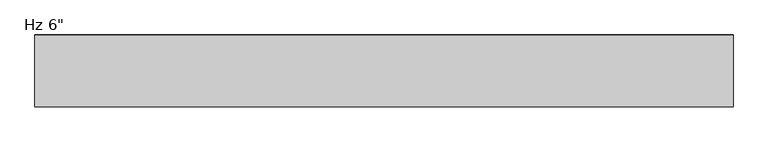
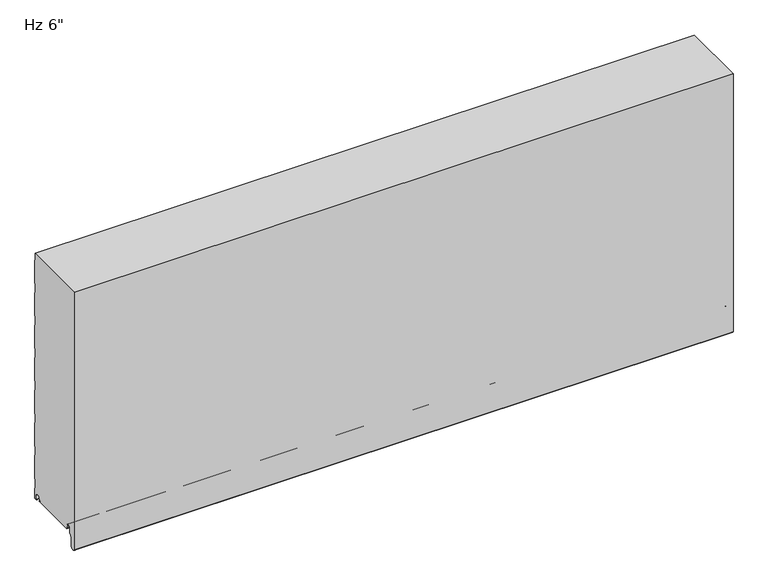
"""IFC4 building model written with IfcOpenShell, lengths in millimetres: plate geometry."""

import ifcopenshell
import ifcopenshell.guid

model = None  # the IFC model being written
_history = None  # IfcOwnerHistory: only IFC2X3 demands one
_inside = {}  # id of a spatial element -> (the spatial element, [elements in it])
_under = {}  # id of a project, library or spatial element -> (it, [spatial elements below it])
_declared = {}  # id of a project -> (the project, [libraries it declares])
_typed = {}  # id of a type object -> (the type object, [elements of that type])
_made_of = {}  # id of a material, layer set ... -> (it, [elements and type objects made of it])


def new_model(schema):
    """Start an empty IFC model of exactly this schema.

    Asked for "IFC4X3", IfcOpenShell would pick the latest addendum, in which some entities
    have other attributes; the version numbers below select the first issue.
    IFC2X3 requires an IfcOwnerHistory on every rooted entity: one is made here for all.
    """
    global model, _history
    if schema == "IFC4X3":
        model = ifcopenshell.file(schema_version=(4, 3, 0, 0))
    else:
        model = ifcopenshell.file(schema=schema)
    _inside.clear()
    _under.clear()
    _declared.clear()
    _typed.clear()
    _made_of.clear()
    _history = None
    if model.schema == "IFC2X3":
        org = make("IfcOrganization", Name="unknown")
        user = make(
            "IfcPersonAndOrganization",
            ThePerson=make("IfcPerson", FamilyName="unknown"),
            TheOrganization=org,
        )
        app = make(
            "IfcApplication",
            ApplicationDeveloper=org,
            Version="unknown",
            ApplicationFullName="unknown",
            ApplicationIdentifier="unknown",
        )
        _history = make(
            "IfcOwnerHistory",
            OwningUser=user,
            OwningApplication=app,
            ChangeAction="ADDED",
            CreationDate=0,
        )
    return model


def make(cls, **values):
    """One entity of the class cls with the attributes given. An attribute that is None is left unset."""
    return model.create_entity(
        cls, **{name: value for name, value in values.items() if value is not None}
    )


def rooted(cls, **values):
    """An entity with a GlobalId (a new one), such as an element, a storey or a relation."""
    return make(cls, GlobalId=ifcopenshell.guid.new(), OwnerHistory=_history, **values)


def si_unit(unit_type, name, prefix=None):
    """IfcSIUnit, for example si_unit("LENGTHUNIT", "METRE", prefix="MILLI")."""
    return make("IfcSIUnit", UnitType=unit_type, Prefix=prefix, Name=name)


def assignment(units):
    """IfcUnitAssignment: the units of a project."""
    return None if units is None else make("IfcUnitAssignment", Units=units)


def point(xyz):
    """IfcCartesianPoint."""
    return None if xyz is None else make("IfcCartesianPoint", Coordinates=xyz)


def direction(xyz):
    """IfcDirection."""
    return None if xyz is None else make("IfcDirection", DirectionRatios=xyz)


def frame(location, z_axis=None, x_axis=None):
    """IfcAxis2Placement3D, a coordinate frame: its origin and axes. An axis left out is left unset."""
    return make(
        "IfcAxis2Placement3D",
        Location=point(location),
        Axis=direction(z_axis),
        RefDirection=direction(x_axis),
    )


def origin():
    """The frame at (0, 0, 0) with its axes left unset."""
    return frame((0.0, 0.0, 0.0))


def place(relative_to, where):
    """IfcLocalPlacement: puts the frame where relative to a parent placement (None: the world)."""
    return make(
        "IfcLocalPlacement", PlacementRelTo=relative_to, RelativePlacement=where
    )


def context(
    kind, dimensions, precision=None, world=None, true_north=None, identifier=None
):
    """IfcGeometricRepresentationContext, for example the 3D "Model" context."""
    return make(
        "IfcGeometricRepresentationContext",
        ContextIdentifier=identifier,
        ContextType=kind,
        CoordinateSpaceDimension=dimensions,
        Precision=precision,
        WorldCoordinateSystem=world,
        TrueNorth=true_north,
    )


def project(units=None, contexts=None):
    """IfcProject with its units and contexts."""
    return rooted(
        "IfcProject",
        Name="project",
        RepresentationContexts=contexts,
        UnitsInContext=assignment(units),
    )


def spatial(cls, under=None, at=None, **own):
    """A site, building, storey or space (cls), placed at a placement, below another one or the project."""
    s = rooted(cls, ObjectPlacement=at, **own)
    if under is not None:
        _under.setdefault(under.id(), (under, []))[1].append(s)
    return s


def polyline(points):
    """IfcPolyline through the points."""
    return make("IfcPolyline", Points=[point(p) for p in points])


def circle_curve(where, radius):
    """IfcCircle in the frame where."""
    return make("IfcCircle", Position=where, Radius=radius)


def shape(context_of_items, identifier, shape_type, items):
    """IfcShapeRepresentation: the items that make up one representation, for example the "Body"."""
    return make(
        "IfcShapeRepresentation",
        ContextOfItems=context_of_items,
        RepresentationIdentifier=identifier,
        RepresentationType=shape_type,
        Items=items,
    )


def source(mapping_origin, context_of_items, identifier, shape_type, items):
    """IfcRepresentationMap: a shape defined once, which mapped items show again and again."""
    return make(
        "IfcRepresentationMap",
        MappingOrigin=mapping_origin,
        MappedRepresentation=shape(context_of_items, identifier, shape_type, items),
    )


def transform(
    local_origin,
    x_axis=None,
    y_axis=None,
    z_axis=None,
    scale=None,
    scale2=None,
    scale3=None,
    uniform=True,
):
    """IfcCartesianTransformationOperator3D, or its non-uniform kind. x_axis, y_axis, z_axis: its Axis1, 2, 3."""
    if uniform:
        return make(
            "IfcCartesianTransformationOperator3D",
            Axis1=direction(x_axis),
            Axis2=direction(y_axis),
            LocalOrigin=point(local_origin),
            Scale=scale,
            Axis3=direction(z_axis),
        )
    return make(
        "IfcCartesianTransformationOperator3DnonUniform",
        Axis1=direction(x_axis),
        Axis2=direction(y_axis),
        LocalOrigin=point(local_origin),
        Scale=scale,
        Axis3=direction(z_axis),
        Scale2=scale2,
        Scale3=scale3,
    )


def mapped(mapping_source, mapping_target):
    """IfcMappedItem: shows the shape of a source again, moved by a transform."""
    return make(
        "IfcMappedItem", MappingSource=mapping_source, MappingTarget=mapping_target
    )


def made_of(thing, what):
    """Note that an element or type object is made of a material, layer set ...; save() writes the relation."""
    if what is not None:
        _made_of.setdefault(what.id(), (what, []))[1].append(thing)
    return thing


def element(
    cls,
    number,
    at=None,
    inside=None,
    cuts=None,
    type_object=None,
    material=None,
    context=None,
    identifier="Body",
    shape_type=None,
    held_by="IfcProductDefinitionShape",
    body=None,
    shapes=None,
    **own,
):
    """One element of the class cls, such as IfcWall. Its Tag is "e" and its number.

    at: its placement. inside: the storey or other place that contains it. cuts: it is an
    opening in that element (IfcRelVoidsElement). A single representation is given by context,
    identifier, shape_type and body (its items); several are given by shapes. held_by: the class
    of the entity that holds the representations. save() writes the other relations.
    """
    e = rooted(cls, Tag="e%d" % number, ObjectPlacement=at, **own)
    if body is not None:
        shapes = [shape(context, identifier, shape_type, body)]
    if shapes is not None:
        e.Representation = make(held_by, Representations=shapes)
    if inside is not None:
        _inside.setdefault(inside.id(), (inside, []))[1].append(e)
    if cuts is not None:
        rooted(
            "IfcRelVoidsElement", RelatingBuildingElement=cuts, RelatedOpeningElement=e
        )
    if type_object is not None:
        _typed.setdefault(type_object.id(), (type_object, []))[1].append(e)
    return made_of(e, material)


def aggregate(whole, parts):
    """IfcRelAggregates: a whole, such as a stair, and the parts it consists of."""
    return rooted("IfcRelAggregates", RelatingObject=whole, RelatedObjects=parts)


def save(model, path):
    """Write the relations noted so far, then the file.

    IfcRelAggregates (storeys below a building ...), IfcRelContainedInSpatialStructure (elements
    in a storey), IfcRelDefinesByType, IfcRelAssociatesMaterial and IfcRelDeclares: one each for
    every whole, place, type object, material and project.
    """
    for whole, parts in _under.values():
        aggregate(whole, parts)
    for where, things in _inside.values():
        rooted(
            "IfcRelContainedInSpatialStructure",
            RelatedElements=things,
            RelatingStructure=where,
        )
    for kind, things in _typed.values():
        rooted("IfcRelDefinesByType", RelatedObjects=things, RelatingType=kind)
    for what, things in _made_of.values():
        rooted("IfcRelAssociatesMaterial", RelatedObjects=things, RelatingMaterial=what)
    for by, libraries in _declared.values():
        rooted("IfcRelDeclares", RelatingContext=by, RelatedDefinitions=libraries)
    model.write(path)


def plane_surface(at):
    """IfcPlane: the flat surface through the origin of the frame at, square to its z axis."""
    return make("IfcPlane", Position=at)


def cylinder_surface(at, radius):
    """IfcCylindricalSurface: all points at the distance radius from the z axis of the frame at."""
    return make("IfcCylindricalSurface", Position=at, Radius=radius)


def revolved_surface(curve, axis_point, axis_direction):
    """IfcSurfaceOfRevolution: the curve turned about the line through axis_point along axis_direction."""
    return make(
        "IfcSurfaceOfRevolution",
        SweptCurve=make("IfcArbitraryOpenProfileDef", ProfileType="CURVE", Curve=curve),
        AxisPosition=make("IfcAxis1Placement", Location=point(axis_point), Axis=direction(axis_direction)),
    )


def advanced_brep(points, edges, surfaces, faces):
    """IfcAdvancedBrep: a solid bounded by faces that lie on surfaces and meet in shared edges.

    An edge is (start, end): straight between two places in points (the first is 0);
    or (start, end, curve); or (start, end, curve, False) where it runs against its curve.
    A face is (place in surfaces, loops), or (place, loops, False) where it looks against
    its surface's normal. A loop lists edges by number (the first is 1), with a minus sign
    where the edge is run from its end to its start. The first loop is the outer one.
    """
    corners = [point(p) for p in points]
    vertices = [make("IfcVertexPoint", VertexGeometry=c) for c in corners]
    made = []
    for start, end, *more in edges:
        made.append(
            make(
                "IfcEdgeCurve",
                EdgeStart=vertices[start],
                EdgeEnd=vertices[end],
                EdgeGeometry=more[0] if more else make("IfcPolyline", Points=[corners[start], corners[end]]),
                SameSense=more[1] if len(more) > 1 else True,
            )
        )
    hull = []
    for where, loops, *sense in faces:
        bounds = []
        for j, loop in enumerate(loops):
            ring = [make("IfcOrientedEdge", EdgeElement=made[abs(k) - 1], Orientation=k > 0) for k in loop]
            bounds.append(
                make(
                    "IfcFaceOuterBound" if j == 0 else "IfcFaceBound",
                    Bound=make("IfcEdgeLoop", EdgeList=ring),
                    Orientation=True,
                )
            )
        hull.append(make("IfcAdvancedFace", Bounds=bounds, FaceSurface=surfaces[where], SameSense=sense[0] if sense else True))
    return make("IfcAdvancedBrep", Outer=make("IfcClosedShell", CfsFaces=hull))


def plate_fd3d5ee7(model_context):
    return source(origin(), model_context, "Body", "AdvancedBrep", [
        advanced_brep(
        [(-730.0, -124.0708959, 1.0316999), (-730.0, -122.9014212, 2.2328239), (-730.0, -122.9014212, 5.9912173), (-730.0, -124.2999001, 5.9912173), (-730.0, -124.2999001, 8.6903283), (-730.0, -127.6498954, 12.0403236), (-730.0, -132.0498866, 12.0403236), (-730.0, -135.3998819, 8.6903283), (-730.0, -135.3998819, -3.1205608), (-730.0, -135.8977988, -4.3226385), (-730.0, -141.3998699, -9.8247096), (-730.0, -141.3998699, -31.9198392), (-730.0, -143.6184719, -34.5765709), (-730.0, -148.6002927, -35.0125699), (-730.0, -151.3946177, -32.4521176), (-730.0, -151.4000209, 571.2), (-730.0, -2.2002516, 571.2), (-730.0, -2.2002516, 555.8186019), (-730.0, -1.0000209, 554.4329689), (-730.0, -1.0000209, 500.3795535), (-730.0, -2.2002516, 498.9939206), (-730.0, -2.2002516, 479.6187543), (-730.0, -1.0000209, 478.2331213), (-730.0, -1.0000209, 424.1797059), (-730.0, -2.2002516, 422.794073), (-730.0, -2.2002516, 403.4189067), (-730.0, -1.0000209, 402.0332737), (-730.0, -1.0000209, 347.9798583), (-730.0, -2.2002516, 346.5942254), (-730.0, -2.2002516, 327.2190591), (-730.0, -1.0000209, 325.8334261), (-730.0, -1.0000209, 271.7800107), (-730.0, -2.2002516, 270.3943778), (-730.0, -2.2002516, 251.0192115), (-730.0, -1.0000209, 249.6335785), (-730.0, -1.0000209, 195.5801631), (-730.0, -2.2002516, 194.1945302), (-730.0, -2.2002516, 174.8193639), (-730.0, -1.0000209, 173.4337309), (-730.0, -1.0000209, 119.3803155), (-730.0, -2.2002516, 117.9946826), (-730.0, -2.2002516, 98.6195163), (-730.0, -1.0000209, 97.2338833), (-730.0, -1.0000209, 43.1804679), (-730.0, -2.2002516, 41.794835), (-730.0, -2.2002516, 22.4196687), (-730.0, -1.0000126, 21.034026), (-730.0, -1.0000126, -3.4662506), (-730.0, -5.2315599, -3.4662506), (-730.0, -7.001554, -1.6962564), (-730.0, -7.001554, 8.7237222), (-730.0, -10.3015499, 12.023718), (-730.0, -14.7015411, 12.023718), (-730.0, -18.0015368, 8.7237223), (-730.0, -18.0015368, 6.0315125), (-730.0, -19.0015314, 6.0315125), (-730.0, -19.0015314, 2.0313089), (-730.0, -18.0015401, 1.0313117), (-730.0, -19.0328517, 0.0), (-730.0, -123.039196, 0.0), (730.0, -124.0708959, 1.0316999), (730.0, -123.039196, 0.0), (730.0, -19.0328517, 0.0), (730.0, -18.0015401, 1.0313117), (730.0, -19.0015314, 2.0313089), (730.0, -19.0015314, 6.0315125), (730.0, -18.0015368, 6.0315125), (730.0, -18.0015368, 8.7237223), (730.0, -14.7015411, 12.023718), (730.0, -10.3015499, 12.023718), (730.0, -7.001554, 8.7237222), (730.0, -7.001554, -1.6962564), (730.0, -5.2315599, -3.4662506), (730.0, -1.0000126, -3.4662506), (730.0, -1.0000126, 21.034026), (730.0, -2.2002516, 22.4196687), (730.0, -2.2002516, 41.794835), (730.0, -1.0000209, 43.1804679), (730.0, -1.0000209, 97.2338833), (730.0, -2.2002516, 98.6195163), (730.0, -2.2002516, 117.9946826), (730.0, -1.0000209, 119.3803155), (730.0, -1.0000209, 173.4337309), (730.0, -2.2002516, 174.8193639), (730.0, -2.2002516, 194.1945302), (730.0, -1.0000209, 195.5801631), (730.0, -1.0000209, 249.6335785), (730.0, -2.2002516, 251.0192115), (730.0, -2.2002516, 270.3943778), (730.0, -1.0000209, 271.7800107), (730.0, -1.0000209, 325.8334261), (730.0, -2.2002516, 327.2190591), (730.0, -2.2002516, 346.5942254), (730.0, -1.0000209, 347.9798583), (730.0, -1.0000209, 402.0332737), (730.0, -2.2002516, 403.4189067), (730.0, -2.2002516, 422.794073), (730.0, -1.0000209, 424.1797059), (730.0, -1.0000209, 478.2331213), (730.0, -2.2002516, 479.6187543), (730.0, -2.2002516, 498.9939206), (730.0, -1.0000209, 500.3795535), (730.0, -1.0000209, 554.4329689), (730.0, -2.2002516, 555.8186019), (730.0, -2.2002516, 571.2), (730.0, -151.4000209, 571.2), (730.0, -151.4000209, -32.4521176), (730.0, -148.6002927, -35.0125699), (730.0, -143.6184719, -34.5765709), (730.0, -141.3998699, -31.9198392), (730.0, -141.3998699, -9.8247096), (730.0, -135.8977988, -4.3226385), (730.0, -135.3998819, -3.1205608), (730.0, -135.3998819, 8.6903283), (730.0, -132.0498866, 12.0403236), (730.0, -127.6498954, 12.0403236), (730.0, -124.2999001, 8.6903283), (730.0, -124.2999001, 5.9912173), (730.0, -122.9014212, 5.9912173), (730.0, -122.9014212, 2.2328239)],
        [
            (0, 1, circle_curve(frame((-730.0, -124.1014178, 2.2313092), z_axis=(1.0, 0.0, 0.0), x_axis=(0.0, 0.0, -1.0)), 1.1999976)),
            (1, 2),
            (2, 3),
            (3, 4),
            (4, 5, circle_curve(frame((-730.0, -127.6498954, 8.6903283), z_axis=(1.0, 0.0, 0.0), x_axis=(0.0, 0.0, -1.0)), 3.3499953)),
            (5, 6),
            (6, 7, circle_curve(frame((-730.0, -132.0498866, 8.6903283), z_axis=(1.0, 0.0, 0.0), x_axis=(0.0, 0.0, -1.0)), 3.3499953)),
            (7, 8),
            (8, 9, circle_curve(frame((-730.0, -137.0998765, -3.1205608), z_axis=(-1.0, 0.0, 0.0), x_axis=(0.0, 0.0, -1.0)), 1.6999946)),
            (9, 10),
            (10, 11),
            (11, 12, circle_curve(frame((-730.0, -144.0998625, -31.9198392), z_axis=(-1.0, 0.0, 0.0), x_axis=(0.0, 0.0, -1.0)), 2.6999926)),
            (12, 13),
            (13, 14, circle_curve(frame((-730.0, -148.8243784, -32.4521176), z_axis=(-1.0, 0.0, 0.0), x_axis=(0.0, 0.0, -1.0)), 2.5702393)),
            (14, 15),
            (15, 16),
            (16, 17),
            (17, 18),
            (18, 19),
            (19, 20),
            (20, 21),
            (21, 22),
            (22, 23),
            (23, 24),
            (24, 25),
            (25, 26),
            (26, 27),
            (27, 28),
            (28, 29),
            (29, 30),
            (30, 31),
            (31, 32),
            (32, 33),
            (33, 34),
            (34, 35),
            (35, 36),
            (36, 37),
            (37, 38),
            (38, 39),
            (39, 40),
            (40, 41),
            (41, 42),
            (42, 43),
            (43, 44),
            (44, 45),
            (45, 46),
            (46, 47),
            (47, 48),
            (48, 49, circle_curve(frame((-730.0, -5.2315599, -1.6962564), z_axis=(-1.0, 0.0, 0.0), x_axis=(0.0, 0.0, 1.0)), 1.7699942)),
            (49, 50),
            (50, 51, circle_curve(frame((-730.0, -10.3015499, 8.7237222), z_axis=(1.0, 0.0, 0.0), x_axis=(0.0, 0.0, 1.0)), 3.2999959)),
            (51, 52),
            (52, 53, circle_curve(frame((-730.0, -14.7015411, 8.7237223), z_axis=(1.0, 0.0, 0.0), x_axis=(0.0, 0.0, 1.0)), 3.2999957)),
            (53, 54),
            (54, 55),
            (55, 56),
            (56, 57, circle_curve(frame((-730.0, -18.0015342, 2.0313089), z_axis=(1.0, 0.0, 0.0), x_axis=(0.0, 0.0, 1.0)), 0.9999972)),
            (57, 58),
            (58, 59),
            (59, 0),
            (60, 61),
            (61, 62),
            (62, 63),
            (63, 64, circle_curve(frame((730.0, -18.0015342, 2.0313089), z_axis=(-1.0, 0.0, 0.0), x_axis=(0.0, 0.0, 1.0)), 0.9999972)),
            (64, 65),
            (65, 66),
            (66, 67),
            (67, 68, circle_curve(frame((730.0, -14.7015411, 8.7237223), z_axis=(-1.0, 0.0, 0.0), x_axis=(0.0, 0.0, 1.0)), 3.2999957)),
            (68, 69),
            (69, 70, circle_curve(frame((730.0, -10.3015499, 8.7237222), z_axis=(-1.0, 0.0, 0.0), x_axis=(0.0, 0.0, 1.0)), 3.2999959)),
            (70, 71),
            (71, 72, circle_curve(frame((730.0, -5.2315599, -1.6962564), z_axis=(1.0, 0.0, 0.0), x_axis=(0.0, 0.0, 1.0)), 1.7699942)),
            (72, 73),
            (73, 74),
            (74, 75),
            (75, 76),
            (76, 77),
            (77, 78),
            (78, 79),
            (79, 80),
            (80, 81),
            (81, 82),
            (82, 83),
            (83, 84),
            (84, 85),
            (85, 86),
            (86, 87),
            (87, 88),
            (88, 89),
            (89, 90),
            (90, 91),
            (91, 92),
            (92, 93),
            (93, 94),
            (94, 95),
            (95, 96),
            (96, 97),
            (97, 98),
            (98, 99),
            (99, 100),
            (100, 101),
            (101, 102),
            (102, 103),
            (103, 104),
            (104, 105),
            (105, 106),
            (106, 107, circle_curve(frame((730.0, -148.8243784, -32.4521176), z_axis=(1.0, 0.0, 0.0), x_axis=(0.0, 0.0, -1.0)), 2.5702393)),
            (107, 108),
            (108, 109, circle_curve(frame((730.0, -144.0998625, -31.9198392), z_axis=(1.0, 0.0, 0.0), x_axis=(0.0, 0.0, -1.0)), 2.6999926)),
            (109, 110),
            (110, 111),
            (111, 112, circle_curve(frame((730.0, -137.0998765, -3.1205608), z_axis=(1.0, 0.0, 0.0), x_axis=(0.0, 0.0, -1.0)), 1.6999946)),
            (112, 113),
            (113, 114, circle_curve(frame((730.0, -132.0498866, 8.6903283), z_axis=(-1.0, 0.0, 0.0), x_axis=(0.0, 0.0, -1.0)), 3.3499953)),
            (114, 115),
            (115, 116, circle_curve(frame((730.0, -127.6498954, 8.6903283), z_axis=(-1.0, 0.0, 0.0), x_axis=(0.0, 0.0, -1.0)), 3.3499953)),
            (116, 117),
            (117, 118),
            (118, 119),
            (119, 60, circle_curve(frame((730.0, -124.1014178, 2.2313092), z_axis=(-1.0, 0.0, 0.0), x_axis=(0.0, 0.0, -1.0)), 1.1999976)),
            (59, 61),
            (60, 0),
            (58, 62),
            (105, 15),
            (14, 106),
            (13, 107),
            (12, 108),
            (11, 109),
            (10, 110),
            (9, 111),
            (8, 112),
            (7, 113),
            (6, 114),
            (5, 115),
            (4, 116),
            (3, 117),
            (2, 118),
            (1, 119),
            (104, 16),
            (57, 63),
            (56, 64),
            (55, 65),
            (54, 66),
            (53, 67),
            (52, 68),
            (51, 69),
            (50, 70),
            (49, 71),
            (48, 72),
            (47, 73),
            (46, 74),
            (45, 75),
            (44, 76),
            (43, 77),
            (42, 78),
            (41, 79),
            (40, 80),
            (39, 81),
            (38, 82),
            (37, 83),
            (36, 84),
            (35, 85),
            (34, 86),
            (33, 87),
            (32, 88),
            (31, 89),
            (30, 90),
            (29, 91),
            (28, 92),
            (27, 93),
            (26, 94),
            (25, 95),
            (24, 96),
            (23, 97),
            (22, 98),
            (21, 99),
            (20, 100),
            (19, 101),
            (18, 102),
            (17, 103),
        ],
        [
            plane_surface(frame((-730.0, -151.4000209, 457.2), z_axis=(-1.0, 0.0, 0.0), x_axis=(0.0, -1.0, 0.0))),
            plane_surface(frame((730.0, -151.4000209, 457.2), z_axis=(1.0, 0.0, 0.0), x_axis=(0.0, -1.0, 0.0))),
            plane_surface(frame((-730.0, -124.0708959, 1.0316999), z_axis=(0.0, -0.7071067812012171, -0.707106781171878), x_axis=(1.0, 0.0, 0.0))),
            plane_surface(frame((-730.0, -123.039196, 0.0), z_axis=(0.0, 0.0, -1.0), x_axis=(1.0, 0.0, 0.0))),
            plane_surface(frame((-730.0, -151.4000209, 865.915622), z_axis=(0.0, -1.0, 0.0), x_axis=(1.0, 0.0, 0.0))),
            cylinder_surface(frame((-730.0, -148.8243784, -32.4521176), z_axis=(-1.0, 0.0, 0.0), x_axis=(0.0, 0.0, -1.0)), 2.5702393),
            plane_surface(frame((-730.0, -148.6002927, -35.0125699), z_axis=(0.0, 0.08718474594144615, -0.9961921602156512), x_axis=(1.0, 0.0, 0.0))),
            cylinder_surface(frame((-730.0, -144.0998625, -31.9198392), z_axis=(-1.0, 0.0, 0.0), x_axis=(0.0, 0.0, -1.0)), 2.6999926),
            plane_surface(frame((-730.0, -141.3998699, -31.9198392), z_axis=(0.0, 1.0, 0.0), x_axis=(1.0, 0.0, 0.0))),
            plane_surface(frame((-730.0, -141.3998699, -9.8247096), z_axis=(0.0, 0.7071067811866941, -0.707106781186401), x_axis=(1.0, 0.0, 0.0))),
            cylinder_surface(frame((-730.0, -137.0998765, -3.1205608), z_axis=(-1.0, 0.0, 0.0), x_axis=(0.0, 0.0, -1.0)), 1.6999946),
            plane_surface(frame((-730.0, -135.3998819, -3.1205608), z_axis=(0.0, 1.0, 0.0), x_axis=(1.0, 0.0, 0.0))),
            revolved_surface(polyline([(730.0, -132.0498866, 5.340332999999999), (-730.0, -132.0498866, 5.340332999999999)]), (-730.0, -132.0498866, 8.6903283), (1.0, 0.0, 0.0)),
            plane_surface(frame((-730.0, -132.0498866, 12.0403236), z_axis=(0.0, 0.0, -1.0), x_axis=(1.0, 0.0, 0.0))),
            revolved_surface(polyline([(730.0, -127.6498954, 5.340332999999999), (-730.0, -127.6498954, 5.340332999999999)]), (-730.0, -127.6498954, 8.6903283), (1.0, 0.0, 0.0)),
            plane_surface(frame((-730.0, -124.2999001, 8.6903283), z_axis=(0.0, -1.0, 0.0), x_axis=(1.0, 0.0, 0.0))),
            plane_surface(frame((-730.0, -124.2999001, 5.9912173), z_axis=(0.0, 0.0, -1.0), x_axis=(1.0, 0.0, 0.0))),
            plane_surface(frame((-730.0, -122.9014212, 5.9912173), z_axis=(0.0, -1.0, 0.0), x_axis=(1.0, 0.0, 0.0))),
            revolved_surface(polyline([(730.0, -124.1014178, 1.0313116), (-730.0, -124.1014178, 1.0313116)]), (-730.0, -124.1014178, 2.2313092), (1.0, 0.0, 0.0)),
            plane_surface(frame((730.0, 9.9999791, 571.2), z_axis=(0.0, 0.0, 1.0), x_axis=(-1.0, 0.0, 0.0))),
            plane_surface(frame((-730.0, -19.0328517, 0.0), z_axis=(0.0, 0.7071067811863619, -0.7071067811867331), x_axis=(1.0, 0.0, 0.0))),
            revolved_surface(polyline([(730.0, -18.0015342, 3.0313061), (-730.0, -18.0015342, 3.0313061)]), (-730.0, -18.0015342, 2.0313089), (1.0, 0.0, 0.0)),
            plane_surface(frame((-730.0, -19.0015314, 2.0313089), z_axis=(0.0, 1.0, 0.0), x_axis=(1.0, 0.0, 0.0))),
            plane_surface(frame((-730.0, -19.0015314, 6.0315125), z_axis=(0.0, 0.0, -1.0), x_axis=(1.0, 0.0, 0.0))),
            plane_surface(frame((-730.0, -18.0015368, 6.0315125), z_axis=(0.0, 1.0, 0.0), x_axis=(1.0, 0.0, 0.0))),
            revolved_surface(polyline([(730.0, -14.7015411, 12.023718), (-730.0, -14.7015411, 12.023718)]), (-730.0, -14.7015411, 8.7237223), (1.0, 0.0, 0.0)),
            plane_surface(frame((-730.0, -14.7015411, 12.023718), z_axis=(0.0, 0.0, -1.0), x_axis=(1.0, 0.0, 0.0))),
            revolved_surface(polyline([(730.0, -10.3015499, 12.0237181), (-730.0, -10.3015499, 12.0237181)]), (-730.0, -10.3015499, 8.7237222), (1.0, 0.0, 0.0)),
            plane_surface(frame((-730.0, -7.001554, 8.7237222), z_axis=(0.0, -1.0, 0.0), x_axis=(1.0, 0.0, 0.0))),
            cylinder_surface(frame((-730.0, -5.2315599, -1.6962564), z_axis=(-1.0, 0.0, 0.0), x_axis=(0.0, 0.0, 1.0)), 1.7699942),
            plane_surface(frame((-730.0, -5.2315599, -3.4662506), z_axis=(0.0, 0.0, -1.0), x_axis=(1.0, 0.0, 0.0))),
            plane_surface(frame((-730.0, -1.0000126, -3.4662506), z_axis=(0.0, 1.0, 0.0), x_axis=(1.0, 0.0, 0.0))),
            plane_surface(frame((-730.0, -1.0000126, 21.034026), z_axis=(0.0, 0.7558648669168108, 0.6547276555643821), x_axis=(1.0, 0.0, 0.0))),
            plane_surface(frame((-730.0, -2.2002516, 22.4196687), z_axis=(0.0, 1.0, 0.0), x_axis=(1.0, 0.0, 0.0))),
            plane_surface(frame((-730.0, -2.2002516, 41.794835), z_axis=(0.0, 0.7558648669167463, -0.6547276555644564), x_axis=(1.0, 0.0, 0.0))),
            plane_surface(frame((-730.0, -1.0000209, 43.1804679), z_axis=(0.0, 1.0, 0.0), x_axis=(1.0, 0.0, 0.0))),
            plane_surface(frame((-730.0, -1.0000209, 97.2338833), z_axis=(0.0, 0.7558648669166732, 0.6547276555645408), x_axis=(1.0, 0.0, 0.0))),
            plane_surface(frame((-730.0, -2.2002516, 98.6195163), z_axis=(0.0, 1.0, 0.0), x_axis=(1.0, 0.0, 0.0))),
            plane_surface(frame((-730.0, -2.2002516, 117.9946826), z_axis=(0.0, 0.7558648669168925, -0.6547276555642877), x_axis=(1.0, 0.0, 0.0))),
            plane_surface(frame((-730.0, -1.0000209, 119.3803155), z_axis=(0.0, 1.0, 0.0), x_axis=(1.0, 0.0, 0.0))),
            plane_surface(frame((-730.0, -1.0000209, 173.4337309), z_axis=(0.0, 0.7558648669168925, 0.6547276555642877), x_axis=(1.0, 0.0, 0.0))),
            plane_surface(frame((-730.0, -2.2002516, 174.8193639), z_axis=(0.0, 1.0, 0.0), x_axis=(1.0, 0.0, 0.0))),
            plane_surface(frame((-730.0, -2.2002516, 194.1945302), z_axis=(0.0, 0.7558648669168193, -0.6547276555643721), x_axis=(1.0, 0.0, 0.0))),
            plane_surface(frame((-730.0, -1.0000209, 195.5801631), z_axis=(0.0, 1.0, 0.0), x_axis=(1.0, 0.0, 0.0))),
            plane_surface(frame((-730.0, -1.0000209, 249.6335785), z_axis=(0.0, 0.7558648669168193, 0.6547276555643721), x_axis=(1.0, 0.0, 0.0))),
            plane_surface(frame((-730.0, -2.2002516, 251.0192115), z_axis=(0.0, 1.0, 0.0), x_axis=(1.0, 0.0, 0.0))),
            plane_surface(frame((-730.0, -2.2002516, 270.3943778), z_axis=(0.0, 0.7558648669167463, -0.6547276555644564), x_axis=(1.0, 0.0, 0.0))),
            plane_surface(frame((-730.0, -1.0000209, 271.7800107), z_axis=(0.0, 1.0, 0.0), x_axis=(1.0, 0.0, 0.0))),
            plane_surface(frame((-730.0, -1.0000209, 325.8334261), z_axis=(0.0, 0.7558648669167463, 0.6547276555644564), x_axis=(1.0, 0.0, 0.0))),
            plane_surface(frame((-730.0, -2.2002516, 327.2190591), z_axis=(0.0, 1.0, 0.0), x_axis=(1.0, 0.0, 0.0))),
            plane_surface(frame((-730.0, -2.2002516, 346.5942254), z_axis=(0.0, 0.7558648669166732, -0.6547276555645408), x_axis=(1.0, 0.0, 0.0))),
            plane_surface(frame((-730.0, -1.0000209, 347.9798583), z_axis=(0.0, 1.0, 0.0), x_axis=(1.0, 0.0, 0.0))),
            plane_surface(frame((-730.0, -1.0000209, 402.0332737), z_axis=(0.0, 0.7558648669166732, 0.6547276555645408), x_axis=(1.0, 0.0, 0.0))),
            plane_surface(frame((-730.0, -2.2002516, 403.4189067), z_axis=(0.0, 1.0, 0.0), x_axis=(1.0, 0.0, 0.0))),
            plane_surface(frame((-730.0, -2.2002516, 422.794073), z_axis=(0.0, 0.755864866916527, -0.6547276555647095), x_axis=(1.0, 0.0, 0.0))),
            plane_surface(frame((-730.0, -1.0000209, 424.1797059), z_axis=(0.0, 1.0, 0.0), x_axis=(1.0, 0.0, 0.0))),
            plane_surface(frame((-730.0, -1.0000209, 478.2331213), z_axis=(0.0, 0.755864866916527, 0.6547276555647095), x_axis=(1.0, 0.0, 0.0))),
            plane_surface(frame((-730.0, -2.2002516, 479.6187543), z_axis=(0.0, 1.0, 0.0), x_axis=(1.0, 0.0, 0.0))),
            plane_surface(frame((-730.0, -2.2002516, 498.9939206), z_axis=(0.0, 0.755864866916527, -0.6547276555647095), x_axis=(1.0, 0.0, 0.0))),
            plane_surface(frame((-730.0, -1.0000209, 500.3795535), z_axis=(0.0, 1.0, 0.0), x_axis=(1.0, 0.0, 0.0))),
            plane_surface(frame((-730.0, -1.0000209, 554.4329689), z_axis=(0.0, 0.755864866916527, 0.6547276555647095), x_axis=(1.0, 0.0, 0.0))),
            plane_surface(frame((-730.0, -2.2002516, 555.8186019), z_axis=(0.0, 1.0, 0.0), x_axis=(1.0, 0.0, 0.0))),
        ],
        [
            (0, [[1, 2, 3, 4, 5, 6, 7, 8, 9, 10, 11, 12, 13, 14, 15, 16, 17, 18, 19, 20, 21, 22, 23, 24, 25, 26, 27, 28, 29, 30, 31, 32, 33, 34, 35, 36, 37, 38, 39, 40, 41, 42, 43, 44, 45, 46, 47, 48, 49, 50, 51, 52, 53, 54, 55, 56, 57, 58, 59, 60]]),
            (1, [[61, 62, 63, 64, 65, 66, 67, 68, 69, 70, 71, 72, 73, 74, 75, 76, 77, 78, 79, 80, 81, 82, 83, 84, 85, 86, 87, 88, 89, 90, 91, 92, 93, 94, 95, 96, 97, 98, 99, 100, 101, 102, 103, 104, 105, 106, 107, 108, 109, 110, 111, 112, 113, 114, 115, 116, 117, 118, 119, 120]]),
            (2, [[121, -61, 122, -60]]),
            (3, [[-59, 123, -62, -121]]),
            (4, [[-106, 124, -15, 125]]),
            (5, [[126, -107, -125, -14]]),
            (6, [[127, -108, -126, -13]]),
            (7, [[128, -109, -127, -12]]),
            (8, [[129, -110, -128, -11]]),
            (9, [[130, -111, -129, -10]]),
            (10, [[131, -112, -130, -9]]),
            (11, [[132, -113, -131, -8]]),
            (12, [[133, -114, -132, -7]]),
            (13, [[134, -115, -133, -6]]),
            (14, [[135, -116, -134, -5]]),
            (15, [[136, -117, -135, -4]]),
            (16, [[137, -118, -136, -3]]),
            (17, [[138, -119, -137, -2]]),
            (18, [[-122, -120, -138, -1]]),
            (19, [[-124, -105, 139, -16]]),
            (20, [[140, -63, -123, -58]]),
            (21, [[141, -64, -140, -57]]),
            (22, [[142, -65, -141, -56]]),
            (23, [[143, -66, -142, -55]]),
            (24, [[144, -67, -143, -54]]),
            (25, [[145, -68, -144, -53]]),
            (26, [[146, -69, -145, -52]]),
            (27, [[147, -70, -146, -51]]),
            (28, [[148, -71, -147, -50]]),
            (29, [[149, -72, -148, -49]]),
            (30, [[150, -73, -149, -48]]),
            (31, [[151, -74, -150, -47]]),
            (32, [[152, -75, -151, -46]]),
            (33, [[153, -76, -152, -45]]),
            (34, [[154, -77, -153, -44]]),
            (35, [[155, -78, -154, -43]]),
            (36, [[156, -79, -155, -42]]),
            (37, [[157, -80, -156, -41]]),
            (38, [[158, -81, -157, -40]]),
            (39, [[159, -82, -158, -39]]),
            (40, [[160, -83, -159, -38]]),
            (41, [[161, -84, -160, -37]]),
            (42, [[162, -85, -161, -36]]),
            (43, [[163, -86, -162, -35]]),
            (44, [[164, -87, -163, -34]]),
            (45, [[165, -88, -164, -33]]),
            (46, [[166, -89, -165, -32]]),
            (47, [[167, -90, -166, -31]]),
            (48, [[168, -91, -167, -30]]),
            (49, [[169, -92, -168, -29]]),
            (50, [[170, -93, -169, -28]]),
            (51, [[171, -94, -170, -27]]),
            (52, [[172, -95, -171, -26]]),
            (53, [[173, -96, -172, -25]]),
            (54, [[174, -97, -173, -24]]),
            (55, [[175, -98, -174, -23]]),
            (56, [[176, -99, -175, -22]]),
            (57, [[177, -100, -176, -21]]),
            (58, [[178, -101, -177, -20]]),
            (59, [[179, -102, -178, -19]]),
            (60, [[180, -103, -179, -18]]),
            (61, [[-17, -139, -104, -180]]),
        ],
    ),
    ])


if __name__ == "__main__":
    model = new_model("IFC4")
    model_context = context("Model", 3, world=origin())
    ifc_project = project(units=[si_unit("LENGTHUNIT", "METRE", prefix="MILLI")], contexts=[model_context])
    site = spatial("IfcSite", under=ifc_project)
    building = spatial("IfcBuilding", under=site)
    placement = place(None, origin())
    plate_shape = plate_fd3d5ee7(model_context)
    element("IfcPlate", 1, ObjectType="KIP-36-Karrier-KP-R19-CP-Hz-FL3-8in_SL : Hz 6\"", at=placement, inside=building, context=model_context, shape_type="MappedRepresentation", body=[
        mapped(plate_shape, transform((0.0, 0.0, 0.0), x_axis=(1.0, 0.0, 0.0), y_axis=(0.0, 1.0, 0.0), z_axis=(0.0, 0.0, 1.0))),
    ])
    save(model, "model.ifc")
